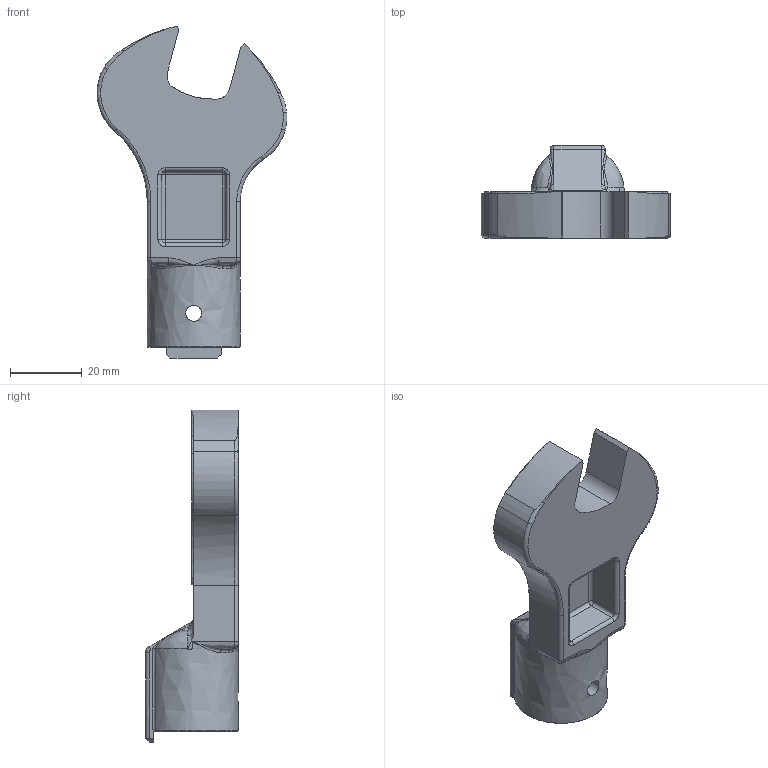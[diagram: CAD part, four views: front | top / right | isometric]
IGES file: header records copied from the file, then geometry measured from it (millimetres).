
Global section: file name: SH19DX18; native system: Autodesk Inventor 2016; preprocessor: unknown; author: Q600; date: 20151029.180601; units: millimetre
Bounding box: 53.06 x 26 x 92.85 mm (x, y, z)
Volume: 29891.7 mm3; surface area: 11459.4 mm2
Topology: 1 solids, 1 shells, 137 faces, 361 edges, 217 vertices
Faces by surface type: bspline 137
